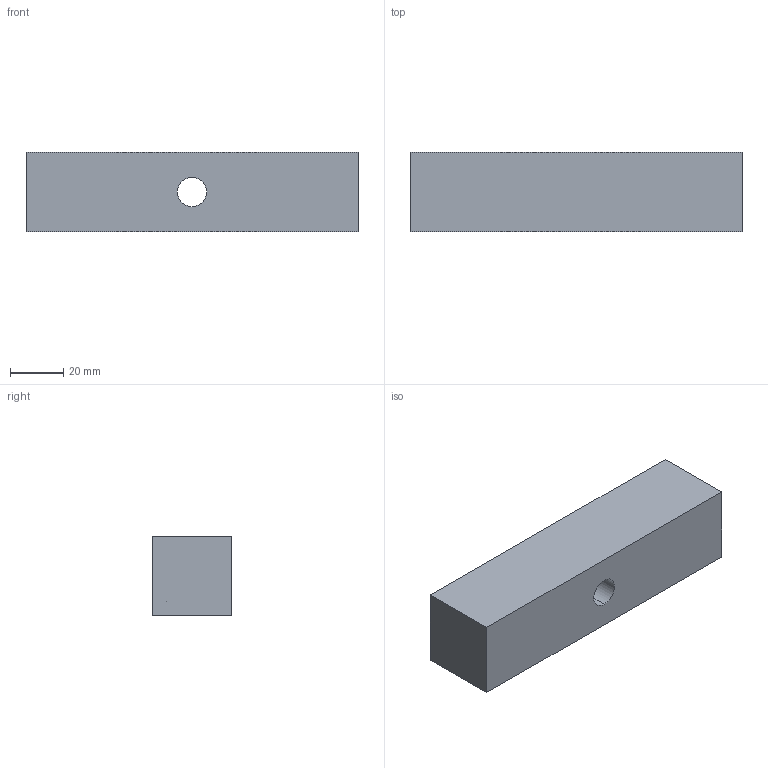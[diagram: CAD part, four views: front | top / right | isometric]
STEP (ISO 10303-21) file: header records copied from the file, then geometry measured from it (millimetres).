
FILE_DESCRIPTION(('CATIA V5 STEP Exchange'),'2;1');
FILE_NAME('C:\Users\Raffaele\Desktop\3D X SITO CF\760\GSB_OILLESS_M317043030125\STEP-2.03\760-2534090.stp','2019-07-04T14:02:49+00:00',('none'),('none'),'CATIA Version 5 Release 20 GA (IN-10)','CATIA V5 STEP AP203','none');
FILE_SCHEMA(('CONFIG_CONTROL_DESIGN'));
Length unit declared in the file: millimetre
Products named in the file (1): 760-2534090
Bounding box: 125 x 30 x 30 mm (x, y, z)
Volume: 107019.5 mm3; surface area: 17986 mm2
Topology: 1 solids, 1 shells, 11 faces, 32 edges, 24 vertices
Faces by surface type: plane 7, cylinder 4
Entity records: 464 total; most frequent: CARTESIAN_POINT 124, ORIENTED_EDGE 64, DIRECTION 50, EDGE_CURVE 32, AXIS2_PLACEMENT_3D 24, VERTEX_POINT 24, VECTOR 16, LINE 16
